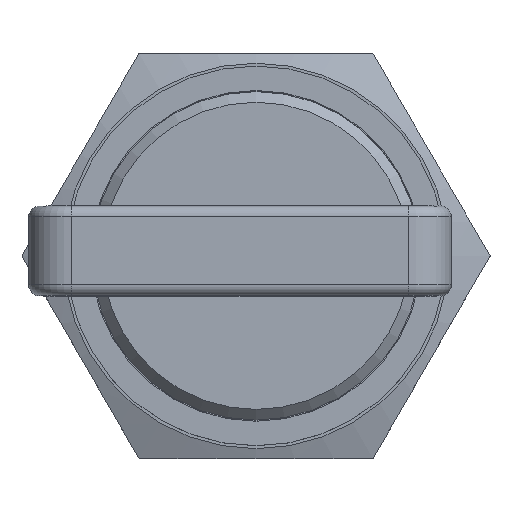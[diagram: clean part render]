
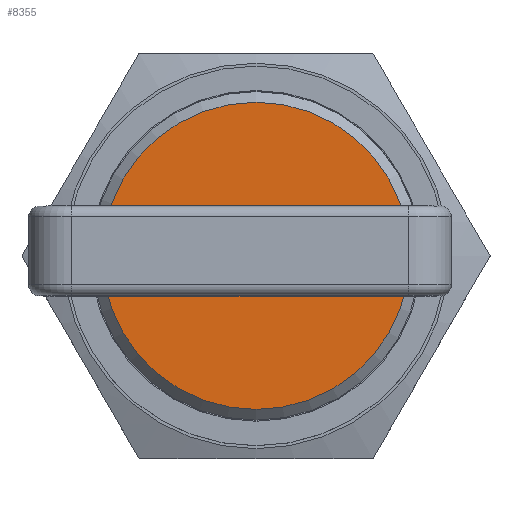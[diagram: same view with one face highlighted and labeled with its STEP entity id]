
A CAD part, top view. The second image highlights one B-rep face of the part: STEP entity #8355.
In plain terms, the highlighted planar face has unit normal (0, 0, 1).
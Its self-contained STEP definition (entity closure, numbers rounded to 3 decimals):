
#8355=ADVANCED_FACE('',(#10264,#10265),#9184,.F.);
#9184=PLANE('',#26388);
#10032=CIRCLE('',#26387,7.2);
#10264=FACE_BOUND('',#10848,.T.);
#10265=FACE_BOUND('',#10849,.T.);
#10848=EDGE_LOOP('',(#14081));
#10849=EDGE_LOOP('',(#14082,#14083,#14084,#14085,#14086,#14087,#14088,#14089));
#14081=ORIENTED_EDGE('',*,*,#20124,.T.);
#14082=ORIENTED_EDGE('',*,*,#20125,.T.);
#14083=ORIENTED_EDGE('',*,*,#20126,.T.);
#14084=ORIENTED_EDGE('',*,*,#19926,.T.);
#14085=ORIENTED_EDGE('',*,*,#19547,.T.);
#14086=ORIENTED_EDGE('',*,*,#20127,.T.);
#14087=ORIENTED_EDGE('',*,*,#19551,.T.);
#14088=ORIENTED_EDGE('',*,*,#19835,.T.);
#14089=ORIENTED_EDGE('',*,*,#19919,.T.);
#17488=VERTEX_POINT('',#35358);
#17489=VERTEX_POINT('',#35359);
#17492=VERTEX_POINT('',#35365);
#17493=VERTEX_POINT('',#35367);
#17529=VERTEX_POINT('',#35461);
#17723=VERTEX_POINT('',#36100);
#17728=VERTEX_POINT('',#36116);
#17876=VERTEX_POINT('',#36587);
#17877=VERTEX_POINT('',#36589);
#19547=EDGE_CURVE('',#17488,#17489,#22082,.T.);
#19551=EDGE_CURVE('',#17493,#17492,#22086,.T.);
#19835=EDGE_CURVE('',#17492,#17529,#22273,.T.);
#19919=EDGE_CURVE('',#17529,#17723,#22326,.T.);
#19926=EDGE_CURVE('',#17728,#17488,#22333,.T.);
#20124=EDGE_CURVE('',#17876,#17876,#10032,.T.);
#20125=EDGE_CURVE('',#17723,#17877,#22472,.T.);
#20126=EDGE_CURVE('',#17877,#17728,#22473,.T.);
#20127=EDGE_CURVE('',#17489,#17493,#22474,.T.);
#22082=LINE('',#35357,#24228);
#22086=LINE('',#35366,#24232);
#22273=LINE('',#35939,#24419);
#22326=LINE('',#36101,#24472);
#22333=LINE('',#36115,#24479);
#22472=LINE('',#36588,#24618);
#22473=LINE('',#36590,#24619);
#22474=LINE('',#36591,#24620);
#24228=VECTOR('',#28558,1.);
#24232=VECTOR('',#28562,1.);
#24419=VECTOR('',#29115,1.);
#24472=VECTOR('',#29330,1.);
#24479=VECTOR('',#29343,1.);
#24618=VECTOR('',#29652,1.);
#24619=VECTOR('',#29653,1.);
#24620=VECTOR('',#29654,1.);
#26387=AXIS2_PLACEMENT_3D('',#36586,#29650,#29651);
#26388=AXIS2_PLACEMENT_3D('',#36592,#29655,#29656);
#28558=DIRECTION('',(1.,0.,0.));
#28562=DIRECTION('',(1.,0.,0.));
#29115=DIRECTION('',(0.,-1.,0.));
#29330=DIRECTION('',(0.,-1.,0.));
#29343=DIRECTION('',(1.,0.,0.));
#29650=DIRECTION('',(0.,0.,1.));
#29651=DIRECTION('',(0.,-1.,0.));
#29652=DIRECTION('',(-1.,0.,0.));
#29653=DIRECTION('',(0.,1.,0.));
#29654=DIRECTION('',(1.,0.,0.));
#29655=DIRECTION('',(0.,0.,-1.));
#29656=DIRECTION('',(0.,-1.,0.));
#35357=CARTESIAN_POINT('',(-3.6,1.1,0.95));
#35358=CARTESIAN_POINT('',(-4.25,1.1,0.95));
#35359=CARTESIAN_POINT('',(-0.004,1.1,0.95));
#35365=CARTESIAN_POINT('',(2.75,1.1,0.95));
#35366=CARTESIAN_POINT('',(-3.6,1.1,0.95));
#35367=CARTESIAN_POINT('',(1.75,1.1,0.95));
#35461=CARTESIAN_POINT('',(2.75,-0.7,0.95));
#35939=CARTESIAN_POINT('',(2.75,1.1,0.95));
#36100=CARTESIAN_POINT('',(2.75,-1.1,0.95));
#36101=CARTESIAN_POINT('',(2.75,1.1,0.95));
#36115=CARTESIAN_POINT('',(-3.6,1.1,0.95));
#36116=CARTESIAN_POINT('',(-4.45,1.1,0.95));
#36586=CARTESIAN_POINT('',(0.,0.,0.95));
#36587=CARTESIAN_POINT('',(0.,-7.2,0.95));
#36588=CARTESIAN_POINT('',(1.9,-1.1,0.95));
#36589=CARTESIAN_POINT('',(-4.45,-1.1,0.95));
#36590=CARTESIAN_POINT('',(-4.45,-1.1,0.95));
#36591=CARTESIAN_POINT('',(-3.6,1.1,0.95));
#36592=CARTESIAN_POINT('',(0.,0.,0.95));
